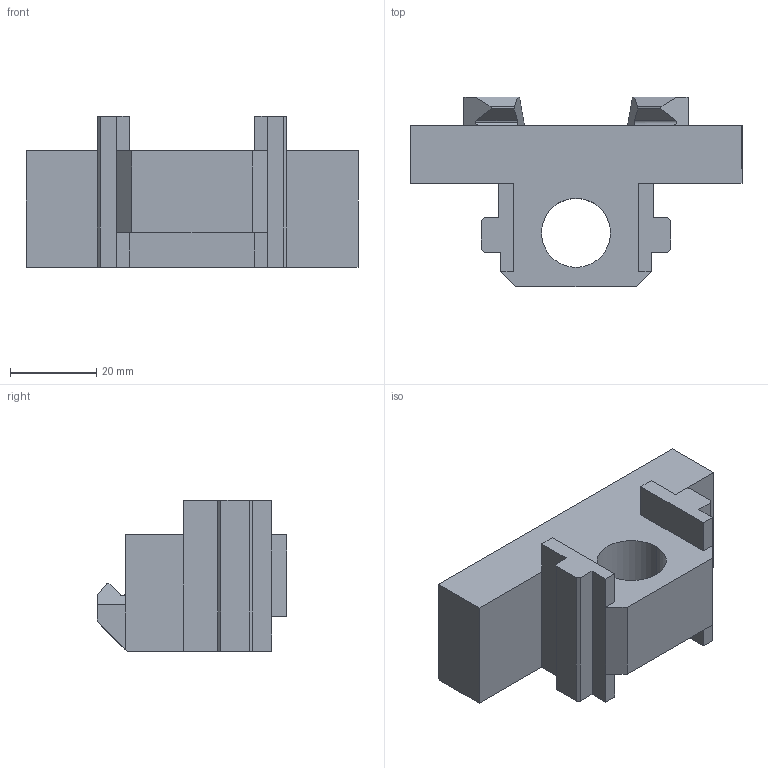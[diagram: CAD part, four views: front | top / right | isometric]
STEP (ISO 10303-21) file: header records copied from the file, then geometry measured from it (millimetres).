
FILE_DESCRIPTION (( 'STEP AP214' ), '1' );
FILE_NAME ('57711-20.STEP', '2020-09-02T12:29:47', ( '' ), ( '' ), 'SwSTEP 2.0', 'SolidWorks 2019', '' );
FILE_SCHEMA (( 'AUTOMOTIVE_DESIGN' ));
Length unit declared in the file: millimetre
Products named in the file (1): 57711-20
Bounding box: 77 x 44 x 35.1 mm (x, y, z)
Volume: 46181.2 mm3; surface area: 12606.2 mm2
Topology: 1 solids, 1 shells, 258 faces, 705 edges, 468 vertices
Faces by surface type: plane 207, bspline 46, cylinder 5
Entity records: 12556 total; most frequent: CARTESIAN_POINT 3984, ORIENTED_EDGE 1410, DIRECTION 1037, EDGE_CURVE 705, LINE 603, VECTOR 603, VERTEX_POINT 468, EDGE_LOOP 279
